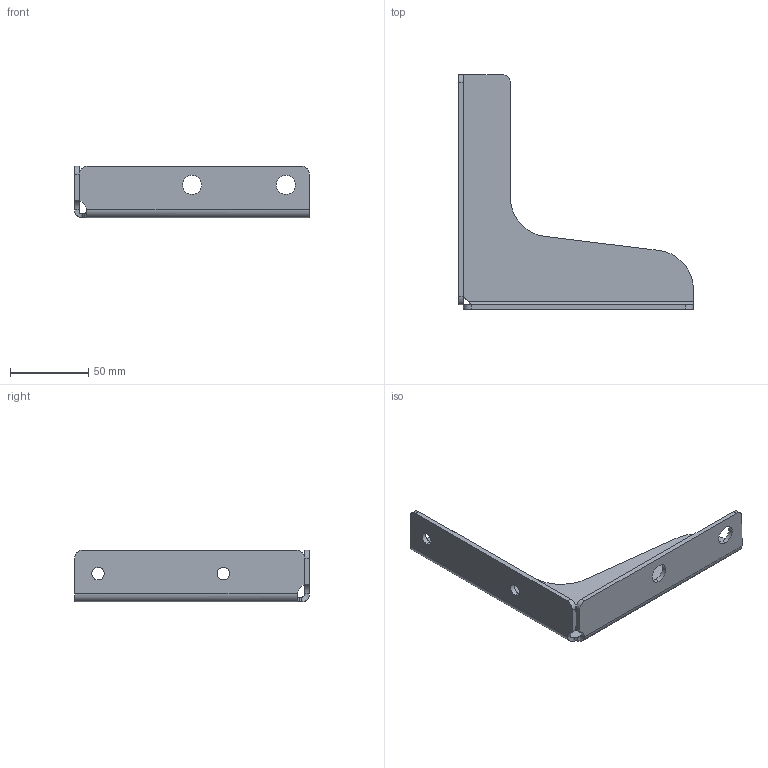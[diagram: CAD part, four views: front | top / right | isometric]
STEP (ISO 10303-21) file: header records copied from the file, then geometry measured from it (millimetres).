
FILE_DESCRIPTION (( 'STEP AP203' ), '1' );
FILE_NAME ('J3ASR.STEP', '2023-03-31T05:19:32', ( '' ), ( '' ), 'SwSTEP 2.0', 'SolidWorks 2019', '' );
FILE_SCHEMA (( 'CONFIG_CONTROL_DESIGN' ));
Length unit declared in the file: millimetre
Products named in the file (1): J3ASR
Bounding box: 150 x 150 x 33 mm (x, y, z)
Volume: 53302.2 mm3; surface area: 38170 mm2
Topology: 1 solids, 1 shells, 41 faces, 105 edges, 66 vertices
Faces by surface type: cylinder 21, plane 18, bspline 2
Entity records: 1459 total; most frequent: CARTESIAN_POINT 361, DIRECTION 215, ORIENTED_EDGE 210, EDGE_CURVE 105, AXIS2_PLACEMENT_3D 79, VERTEX_POINT 66, LINE 57, VECTOR 57
